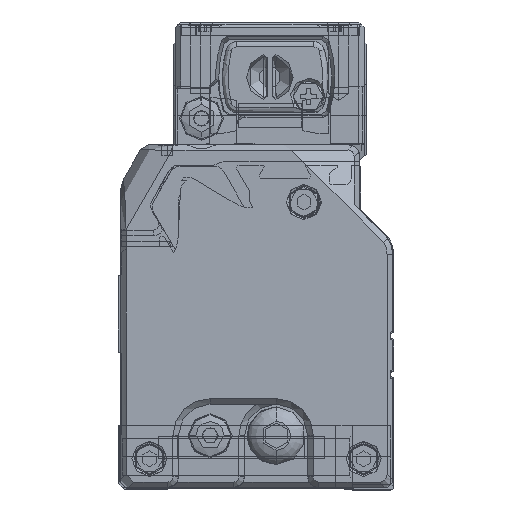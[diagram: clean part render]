
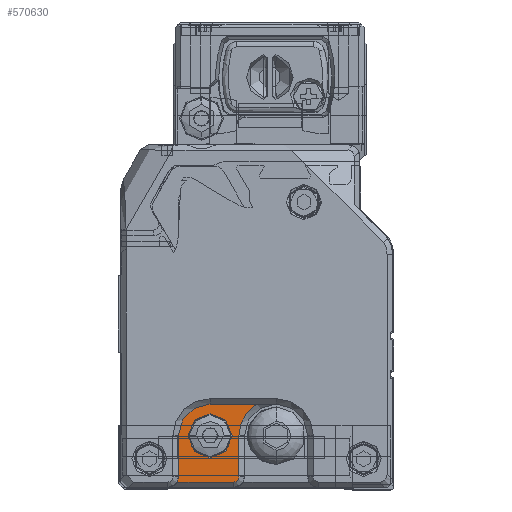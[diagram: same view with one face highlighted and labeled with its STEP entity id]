
A CAD part, left-side view. The second image highlights one B-rep face of the part: STEP entity #570630.
In plain terms, the highlighted planar face has unit normal (-1, 0, 0) as drawn and (1, 0, 0) by its records, which use the part's own axes.
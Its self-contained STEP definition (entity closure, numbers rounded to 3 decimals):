
#569730=CARTESIAN_POINT('',(8064.177,-5.938,
-12.8));
#569740=DIRECTION('',(-1.,0.,0.));
#569750=DIRECTION('',(0.,0.,-1.));
#569760=AXIS2_PLACEMENT_3D('',#569730,#569740,#569750);
#569770=PLANE('',#569760);
#569780=CARTESIAN_POINT('',(8064.177,4.212,
11.598));
#569790=DIRECTION('',(0.,-1.,0.));
#569800=VECTOR('',#569790,1.);
#569810=LINE('',#569780,#569800);
#569820=CARTESIAN_POINT('',(8064.177,8.48,
11.598));
#569830=VERTEX_POINT('',#569820);
#569840=CARTESIAN_POINT('',(8064.177,-1.788,
11.598));
#569850=VERTEX_POINT('',#569840);
#569860=EDGE_CURVE('',#569830,#569850,#569810,.T.);
#569870=ORIENTED_EDGE('',*,*,#569860,.T.);
#569880=CARTESIAN_POINT('',(8064.177,10.212,
10.598));
#569890=DIRECTION('',(-1.,0.,0.));
#569900=DIRECTION('',(0.,1.,0.));
#569910=AXIS2_PLACEMENT_3D('',#569880,#569890,#569900);
#569920=CIRCLE('',#569910,2.);
#569930=CARTESIAN_POINT('',(8064.177,8.212,
10.598));
#569940=VERTEX_POINT('',#569930);
#569950=EDGE_CURVE('',#569940,#569830,#569920,.T.);
#569960=ORIENTED_EDGE('',*,*,#569950,.T.);
#569970=CARTESIAN_POINT('',(8064.177,8.212,
3.148));
#569980=DIRECTION('',(0.,0.,1.));
#569990=VECTOR('',#569980,1.);
#570000=LINE('',#569970,#569990);
#570010=CARTESIAN_POINT('',(8064.177,8.212,
3.148));
#570020=VERTEX_POINT('',#570010);
#570030=EDGE_CURVE('',#570020,#569940,#570000,.T.);
#570040=ORIENTED_EDGE('',*,*,#570030,.T.);
#570050=CARTESIAN_POINT('',(8064.177,2.462,
3.148));
#570060=DIRECTION('',(-1.,0.,0.));
#570070=DIRECTION('',(0.,1.,0.));
#570080=AXIS2_PLACEMENT_3D('',#570050,#570060,#570070);
#570090=CIRCLE('',#570080,5.75);
#570100=CARTESIAN_POINT('',(8064.177,2.462,
-2.602));
#570110=VERTEX_POINT('',#570100);
#570120=EDGE_CURVE('',#570020,#570110,#570090,.T.);
#570130=ORIENTED_EDGE('',*,*,#570120,.F.);
#570140=CARTESIAN_POINT('',(8064.177,-5.888,
-2.602));
#570150=DIRECTION('',(0.,1.,0.));
#570160=VECTOR('',#570150,1.);
#570170=LINE('',#570140,#570160);
#570180=CARTESIAN_POINT('',(8064.177,-6.002,
-2.602));
#570190=VERTEX_POINT('',#570180);
#570200=EDGE_CURVE('',#570190,#570110,#570170,.T.);
#570210=ORIENTED_EDGE('',*,*,#570200,.T.);
#570220=CARTESIAN_POINT('',(8064.177,-9.538,
3.148));
#570230=DIRECTION('',(-1.,0.,0.));
#570240=DIRECTION('',(0.,1.,0.));
#570250=AXIS2_PLACEMENT_3D('',#570220,#570230,#570240);
#570260=CIRCLE('',#570250,6.75);
#570270=CARTESIAN_POINT('',(8064.177,-2.788,
3.148));
#570280=VERTEX_POINT('',#570270);
#570290=EDGE_CURVE('',#570280,#570190,#570260,.T.);
#570300=ORIENTED_EDGE('',*,*,#570290,.T.);
#570310=CARTESIAN_POINT('',(8064.177,-2.788,
6.873));
#570320=DIRECTION('',(0.,0.,-1.));
#570330=VECTOR('',#570320,1.);
#570340=LINE('',#570310,#570330);
#570350=CARTESIAN_POINT('',(8064.177,-2.788,
10.598));
#570360=VERTEX_POINT('',#570350);
#570370=EDGE_CURVE('',#570360,#570280,#570340,.T.);
#570380=ORIENTED_EDGE('',*,*,#570370,.T.);
#570390=CARTESIAN_POINT('',(8064.177,-1.788,
10.598));
#570400=DIRECTION('',(-1.,0.,0.));
#570410=DIRECTION('',(0.,1.,0.));
#570420=AXIS2_PLACEMENT_3D('',#570390,#570400,#570410);
#570430=CIRCLE('',#570420,1.);
#570440=EDGE_CURVE('',#570360,#569850,#570430,.T.);
#570450=ORIENTED_EDGE('',*,*,#570440,.F.);
#570460=EDGE_LOOP('',(#570450,#570380,#570300,#570210,#570130,#570040,
#569960,#569870));
#570470=FACE_OUTER_BOUND('',#570460,.T.);
#570480=CARTESIAN_POINT('',(8064.177,2.462,
3.148));
#570490=DIRECTION('',(-1.,0.,0.));
#570500=DIRECTION('',(0.,0.,-1.));
#570510=AXIS2_PLACEMENT_3D('',#570480,#570490,#570500);
#570520=CIRCLE('',#570510,4.);
#570530=CARTESIAN_POINT('',(8064.177,2.462,
7.148));
#570540=VERTEX_POINT('',#570530);
#570550=CARTESIAN_POINT('',(8064.177,2.462,
-0.852));
#570560=VERTEX_POINT('',#570550);
#570570=EDGE_CURVE('',#570540,#570560,#570520,.T.);
#570580=ORIENTED_EDGE('',*,*,#570570,.T.);
#570590=EDGE_CURVE('',#570560,#570540,#570520,.T.);
#570600=ORIENTED_EDGE('',*,*,#570590,.T.);
#570610=EDGE_LOOP('',(#570600,#570580));
#570620=FACE_BOUND('',#570610,.T.);
#570630=ADVANCED_FACE('',(#570470,#570620),#569770,.F.);
